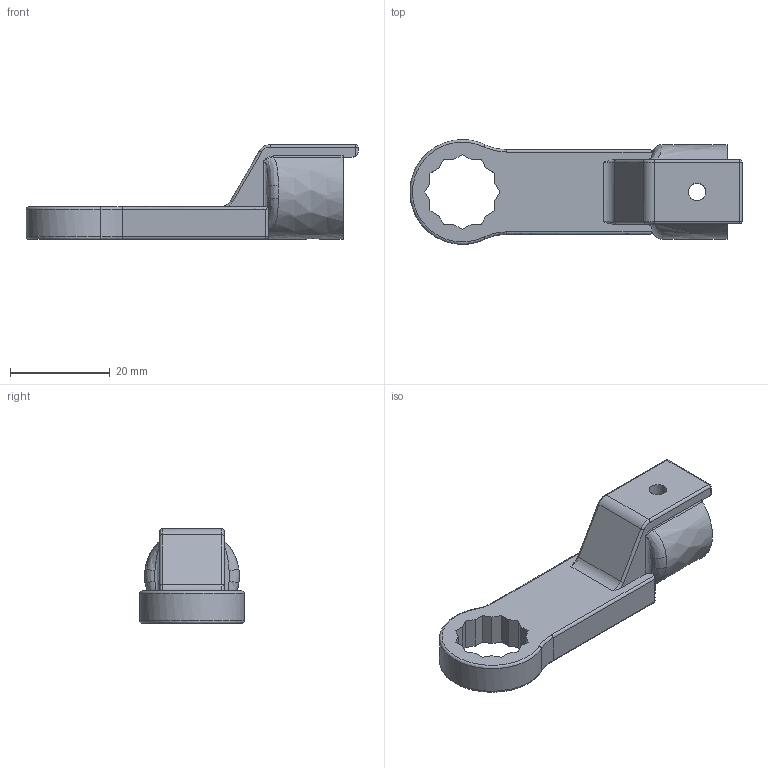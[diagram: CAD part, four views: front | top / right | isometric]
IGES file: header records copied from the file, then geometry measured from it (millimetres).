
Global section: file name: RH12DX13; native system: Autodesk Inventor 2016; preprocessor: unknown; author: Q532; date: 20151110.160712; units: millimetre
Bounding box: 66.5 x 20.98 x 19 mm (x, y, z)
Volume: 7834.1 mm3; surface area: 4470.6 mm2
Topology: 1 solids, 1 shells, 94 faces, 248 edges, 150 vertices
Faces by surface type: bspline 94
